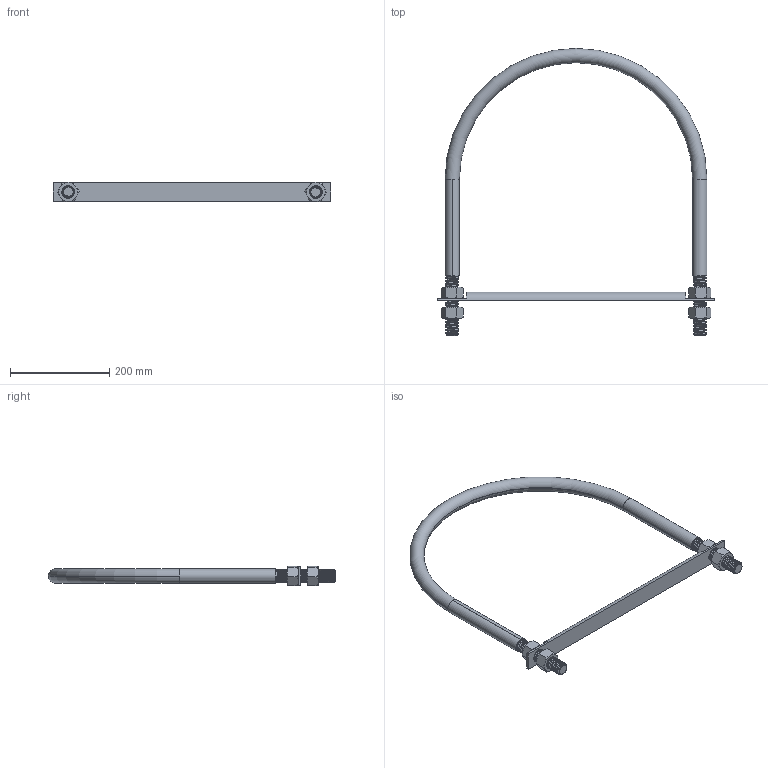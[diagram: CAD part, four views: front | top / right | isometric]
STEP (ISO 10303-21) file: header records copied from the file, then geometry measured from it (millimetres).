
FILE_DESCRIPTION (( 'STEP AP214' ), '1' );
FILE_NAME ('NUB1475.STEP', '2022-04-04T17:50:57', ( '' ), ( '' ), 'SwSTEP 2.0', 'SolidWorks 2021', '' );
FILE_SCHEMA (( 'AUTOMOTIVE_DESIGN' ));
Length unit declared in the file: inch
Products named in the file (4): ROD0649_IR22-18 XL [NUB1475]; FAS0050; NUB1475; UBT1002_UBT22-18-1-8 XL [NUB1475]
Assembly tree (6 placements, depth 2):
  NUB1475
    FAS0050  x4
    UBT1002_UBT22-18-1-8 XL [NUB1475]
    ROD0649_IR22-18 XL [NUB1475]
Bounding box: 558.8 x 577.95 x 39.77 mm (x, y, z)
Volume: 1157610.9 mm3; surface area: 404283.3 mm2
Topology: 7 solids, 7 shells, 309 faces, 817 edges, 522 vertices
Faces by surface type: cylinder 178, cone 76, plane 45, torus 6, bspline 4
Entity records: 19579 total; most frequent: CARTESIAN_POINT 14397, ORIENTED_EDGE 1238, DIRECTION 816, EDGE_CURVE 619, VERTEX_POINT 405, AXIS2_PLACEMENT_3D 308, EDGE_LOOP 230, ADVANCED_FACE 222
